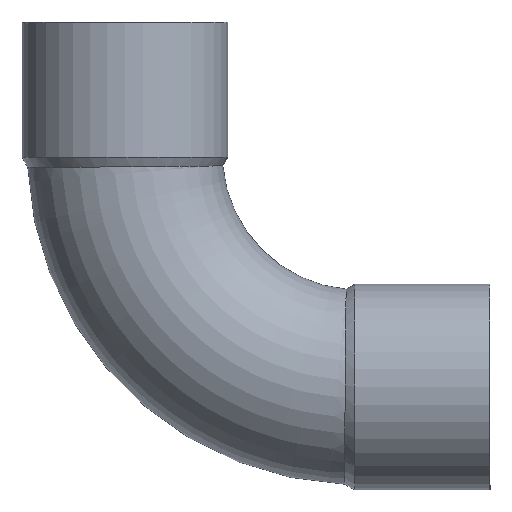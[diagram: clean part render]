
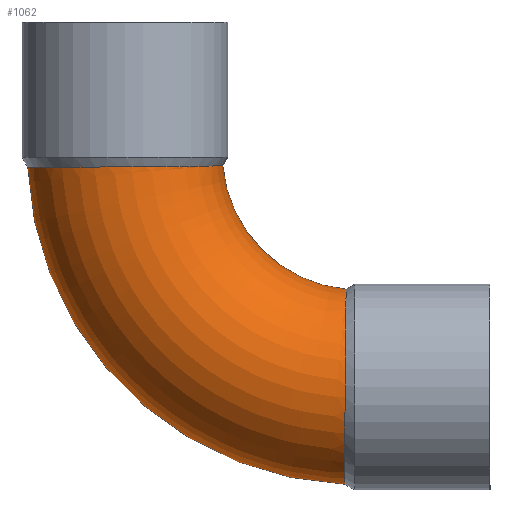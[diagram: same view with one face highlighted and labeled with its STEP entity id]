
A CAD part, front view. The second image highlights one B-rep face of the part: STEP entity #1062.
In plain terms, the highlighted toroidal (fillet/blend) face has major radius 38.4 mm and minor radius 16 mm.
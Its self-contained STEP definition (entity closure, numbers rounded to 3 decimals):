
#49=CARTESIAN_POINT('',(-32.317,0.,-2.283));
#50=VERTEX_POINT('',#49);
#51=CARTESIAN_POINT('',(19.752,0.,-54.352));
#52=VERTEX_POINT('',#51);
#53=CARTESIAN_POINT('',(22.035,0.,0.0));
#54=DIRECTION('',(0.0,-1.0,0.0));
#55=DIRECTION('',(0.0,0.0,-1.0));
#56=AXIS2_PLACEMENT_3D('',#53,#54,#55);
#57=CIRCLE('',#56,54.4);
#58=EDGE_CURVE('',#50,#52,#57,.T.);
#60=CARTESIAN_POINT('',(-0.272,0.,-2.039));
#61=VERTEX_POINT('',#60);
#85=CARTESIAN_POINT('',(19.996,0.,-22.307));
#86=VERTEX_POINT('',#85);
#87=CARTESIAN_POINT('',(22.035,0.,0.0));
#88=DIRECTION('',(0.0,1.0,0.0));
#89=DIRECTION('',(0.0,0.0,-1.0));
#90=AXIS2_PLACEMENT_3D('',#87,#88,#89);
#91=CIRCLE('',#90,22.4);
#92=EDGE_CURVE('',#86,#61,#91,.T.);
#226=CARTESIAN_POINT('',(-0.272,0.,-2.039));
#227=CARTESIAN_POINT('',(-0.272,-0.137,-2.039));
#228=CARTESIAN_POINT('',(-0.274,-0.275,-2.039));
#229=CARTESIAN_POINT('',(-0.331,-2.493,-2.04));
#230=CARTESIAN_POINT('',(-0.791,-4.542,-2.047));
#231=CARTESIAN_POINT('',(-2.474,-8.356,-2.07));
#232=CARTESIAN_POINT('',(-3.683,-10.081,-2.085));
#233=CARTESIAN_POINT('',(-6.694,-12.974,-2.119));
#234=CARTESIAN_POINT('',(-8.47,-14.113,-2.137));
#235=CARTESIAN_POINT('',(-12.356,-15.647,-2.171));
#236=CARTESIAN_POINT('',(-14.43,-16.027,-2.187));
#237=CARTESIAN_POINT('',(-18.605,-15.97,-2.215));
#238=CARTESIAN_POINT('',(-20.666,-15.535,-2.228));
#239=CARTESIAN_POINT('',(-24.503,-13.9,-2.248));
#240=CARTESIAN_POINT('',(-26.243,-12.717,-2.257));
#241=CARTESIAN_POINT('',(-29.17,-9.751,-2.27));
#242=CARTESIAN_POINT('',(-30.329,-7.997,-2.275));
#243=CARTESIAN_POINT('',(-31.91,-4.144,-2.281));
#244=CARTESIAN_POINT('',(-32.317,-2.082,-2.283));
#245=CARTESIAN_POINT('',(-32.317,0.,-2.283));
#246=B_SPLINE_CURVE_WITH_KNOTS('',3,(#226,#227,#228,#229,#230,#231,#232,#233,#234,#235,#236,#237,#238,#239,#240,#241,#242,#243,#244,#245),.UNSPECIFIED.,.F.,.U.,(4,2,2,2,2,2,2,2,2,4),(-5.046,-5.004,-4.38,-3.754,-3.127,-2.501,-1.875,-1.249,-0.625,0.0),.UNSPECIFIED.);
#247=EDGE_CURVE('',#61,#50,#246,.T.);
#1029=CARTESIAN_POINT('',(22.035,0.,0.0));
#1030=DIRECTION('',(0.0,-1.0,0.0));
#1031=DIRECTION('',(0.0,0.0,-1.0));
#1032=AXIS2_PLACEMENT_3D('',#1029,#1030,#1031);
#1033=TOROIDAL_SURFACE('',#1032,38.4,16.0);
#1034=ORIENTED_EDGE('',*,*,#58,.T.);
#1035=CARTESIAN_POINT('',(19.752,0.,-54.352));
#1036=CARTESIAN_POINT('',(19.752,-1.179,-54.352));
#1037=CARTESIAN_POINT('',(19.753,-2.354,-54.222));
#1038=CARTESIAN_POINT('',(19.755,-4.655,-53.705));
#1039=CARTESIAN_POINT('',(19.756,-5.774,-53.32));
#1040=CARTESIAN_POINT('',(19.762,-8.723,-51.924));
#1041=CARTESIAN_POINT('',(19.767,-10.414,-50.673));
#1042=CARTESIAN_POINT('',(19.782,-13.224,-47.592));
#1043=CARTESIAN_POINT('',(19.791,-14.315,-45.79));
#1044=CARTESIAN_POINT('',(19.812,-15.745,-41.868));
#1045=CARTESIAN_POINT('',(19.825,-16.07,-39.785));
#1046=CARTESIAN_POINT('',(19.854,-15.904,-35.61));
#1047=CARTESIAN_POINT('',(19.871,-15.414,-33.558));
#1048=CARTESIAN_POINT('',(19.905,-13.675,-29.76));
#1049=CARTESIAN_POINT('',(19.923,-12.444,-28.05));
#1050=CARTESIAN_POINT('',(19.956,-9.401,-25.202));
#1051=CARTESIAN_POINT('',(19.971,-7.619,-24.089));
#1052=CARTESIAN_POINT('',(19.991,-3.86,-22.66));
#1053=CARTESIAN_POINT('',(19.996,-1.938,-22.307));
#1054=CARTESIAN_POINT('',(19.996,0.,-22.307));
#1055=B_SPLINE_CURVE_WITH_KNOTS('',3,(#1035,#1036,#1037,#1038,#1039,#1040,#1041,#1042,#1043,#1044,#1045,#1046,#1047,#1048,#1049,#1050,#1051,#1052,#1053,#1054),.UNSPECIFIED.,.F.,.U.,(4,2,2,2,2,2,2,2,2,4),(-10.09,-9.736,-9.383,-8.757,-8.132,-7.505,-6.878,-6.252,-5.628,-5.046),.UNSPECIFIED.);
#1056=EDGE_CURVE('',#52,#86,#1055,.T.);
#1057=ORIENTED_EDGE('',*,*,#1056,.T.);
#1058=ORIENTED_EDGE('',*,*,#92,.T.);
#1059=ORIENTED_EDGE('',*,*,#247,.T.);
#1060=EDGE_LOOP('',(#1034,#1057,#1058,#1059));
#1061=FACE_OUTER_BOUND('',#1060,.T.);
#1062=ADVANCED_FACE('',(#1061),#1033,.T.);
